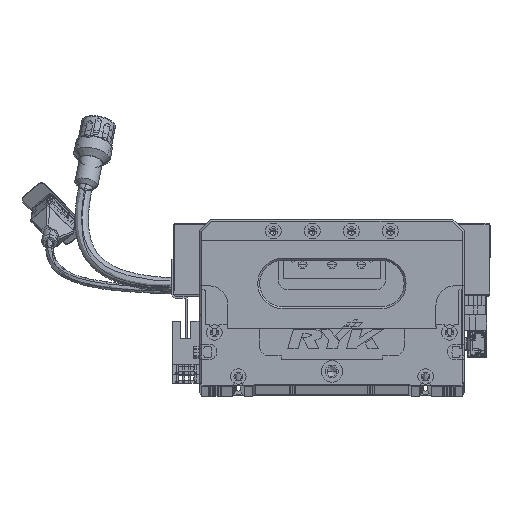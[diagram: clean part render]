
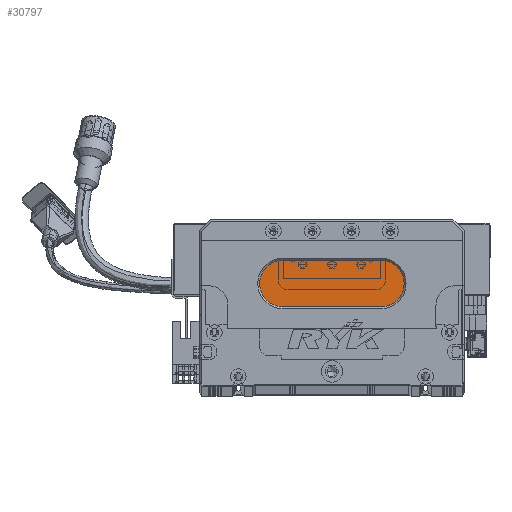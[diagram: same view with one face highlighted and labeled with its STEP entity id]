
A CAD part, top view. The second image highlights one B-rep face of the part: STEP entity #30797.
In plain terms, the highlighted planar face has unit normal (0, 0, 1) as drawn and (0, 0, -1) by its records, which use the part's own axes.
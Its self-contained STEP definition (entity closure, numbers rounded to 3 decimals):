
#1136 = CIRCLE ( 'NONE', #45281, 12. ) ;
#2584 = CARTESIAN_POINT ( 'NONE',  ( 93., 52., 13. ) ) ;
#2771 = ORIENTED_EDGE ( 'NONE', *, *, #122873, .T. ) ;
#5415 = CARTESIAN_POINT ( 'NONE',  ( 93., 64., 13. ) ) ;
#8031 = CARTESIAN_POINT ( 'NONE',  ( 93., 40., 13. ) ) ;
#10504 = CIRCLE ( 'NONE', #109510, 12. ) ;
#11383 = CARTESIAN_POINT ( 'NONE',  ( 93., 64., 13. ) ) ;
#14568 = DIRECTION ( 'NONE',  ( -1., 0., 0. ) ) ;
#16164 = DIRECTION ( 'NONE',  ( -1., 0., 0. ) ) ;
#22318 = EDGE_LOOP ( 'NONE', ( #68556, #35038, #2771, #117372, #122145 ) ) ;
#23110 = CIRCLE ( 'NONE', #60252, 12. ) ;
#25824 = VERTEX_POINT ( 'NONE', #133399 ) ;
#26727 = PLANE ( 'NONE',  #133031 ) ;
#29901 = VERTEX_POINT ( 'NONE', #5415 ) ;
#30797 = ADVANCED_FACE ( 'NONE', ( #72964 ), #26727, .T. ) ;
#35038 = ORIENTED_EDGE ( 'NONE', *, *, #109048, .T. ) ;
#35782 = DIRECTION ( 'NONE',  ( 0., 0., -1. ) ) ;
#37382 = LINE ( 'NONE', #11383, #107505 ) ;
#40092 = EDGE_CURVE ( 'NONE', #69273, #29901, #37382, .T. ) ;
#45281 = AXIS2_PLACEMENT_3D ( 'NONE', #79254, #35782, #67307 ) ;
#56992 = DIRECTION ( 'NONE',  ( 0., 0., -1. ) ) ;
#57925 = CARTESIAN_POINT ( 'NONE',  ( 43., 52., 13. ) ) ;
#58753 = CARTESIAN_POINT ( 'NONE',  ( 93., 52., 13. ) ) ;
#60252 = AXIS2_PLACEMENT_3D ( 'NONE', #57925, #56992, #133563 ) ;
#61933 = CARTESIAN_POINT ( 'NONE',  ( 93., 40., 13. ) ) ;
#67307 = DIRECTION ( 'NONE',  ( -1., 0., 0. ) ) ;
#68556 = ORIENTED_EDGE ( 'NONE', *, *, #109757, .T. ) ;
#69273 = VERTEX_POINT ( 'NONE', #112172 ) ;
#72964 = FACE_OUTER_BOUND ( 'NONE', #22318, .T. ) ;
#73795 = EDGE_CURVE ( 'NONE', #88300, #69273, #1136, .T. ) ;
#79254 = CARTESIAN_POINT ( 'NONE',  ( 43., 52., 13. ) ) ;
#87925 = DIRECTION ( 'NONE',  ( 1., 0., 0. ) ) ;
#88300 = VERTEX_POINT ( 'NONE', #133504 ) ;
#103665 = DIRECTION ( 'NONE',  ( 0., 0., -1. ) ) ;
#107505 = VECTOR ( 'NONE', #87925, 1000. ) ;
#109048 = EDGE_CURVE ( 'NONE', #123804, #25824, #137312, .T. ) ;
#109510 = AXIS2_PLACEMENT_3D ( 'NONE', #2584, #112610, #14568 ) ;
#109757 = EDGE_CURVE ( 'NONE', #29901, #123804, #10504, .T. ) ;
#109989 = VECTOR ( 'NONE', #140082, 1000. ) ;
#112172 = CARTESIAN_POINT ( 'NONE',  ( 43., 64., 13. ) ) ;
#112610 = DIRECTION ( 'NONE',  ( 0., 0., -1. ) ) ;
#117372 = ORIENTED_EDGE ( 'NONE', *, *, #73795, .T. ) ;
#122145 = ORIENTED_EDGE ( 'NONE', *, *, #40092, .T. ) ;
#122873 = EDGE_CURVE ( 'NONE', #25824, #88300, #23110, .T. ) ;
#123804 = VERTEX_POINT ( 'NONE', #61933 ) ;
#133031 = AXIS2_PLACEMENT_3D ( 'NONE', #58753, #103665, #16164 ) ;
#133399 = CARTESIAN_POINT ( 'NONE',  ( 43., 40., 13. ) ) ;
#133504 = CARTESIAN_POINT ( 'NONE',  ( 31., 52., 13. ) ) ;
#133563 = DIRECTION ( 'NONE',  ( -1., 0., 0. ) ) ;
#137312 = LINE ( 'NONE', #8031, #109989 ) ;
#140082 = DIRECTION ( 'NONE',  ( -1., 0., 0. ) ) ;
